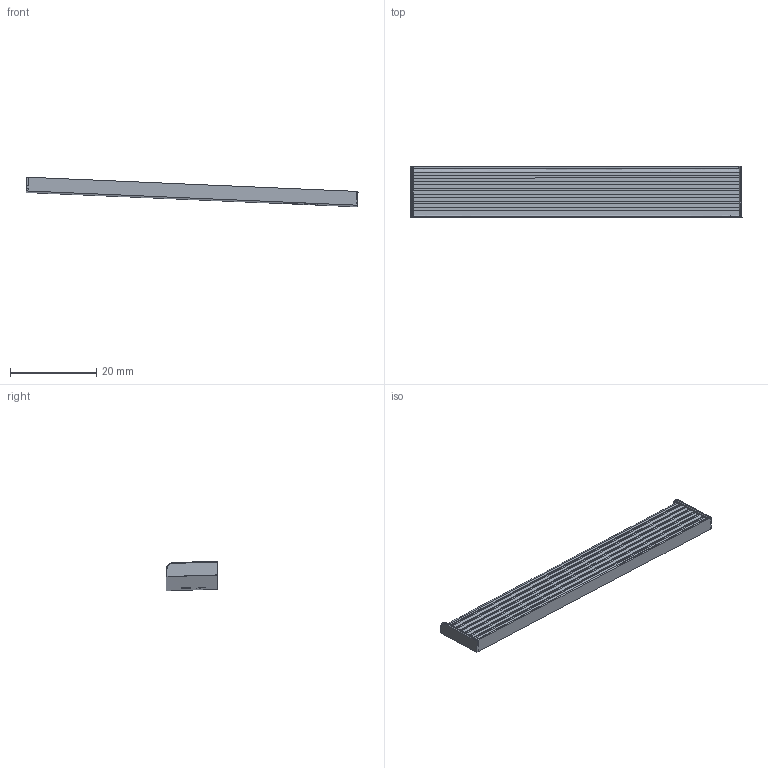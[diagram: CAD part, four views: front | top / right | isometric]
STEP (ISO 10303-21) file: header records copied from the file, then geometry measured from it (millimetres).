
FILE_DESCRIPTION(/* description */ ('','CAx-IF Rec.Pracs.---Representation and Presentation of Product Manufacturing Information (PMI)---4.0---2014-10-13'),/* implementation_level */ '2;1');
FILE_NAME(/* name */ '20elcothrottlecoveringa18680.step',/* time_stamp */ '2025-03-07T13:50:50+11:00',/* author */ (''),/* organization */ (''),/* preprocessor_version */ 'ST-DEVELOPER v20',/* originating_system */ 'Autodesk Translation Framework v13.20.0.188',/* authorisation */ '');
FILE_SCHEMA (('AP242_MANAGED_MODEL_BASED_3D_ENGINEERING_MIM_LF { 1 0 10303 442 1 1 4 }'));
Length unit declared in the file: millimetre
Products named in the file (1): Elco Throttle Deck Covering
Bounding box: 77.07 x 12.01 x 6.88 mm (x, y, z)
Volume: 2255.2 mm3; surface area: 2655.5 mm2
Topology: 1 solids, 1 shells, 281 faces, 784 edges, 520 vertices
Faces by surface type: bspline 195, plane 81, cylinder 5
Entity records: 15981 total; most frequent: CARTESIAN_POINT 10331, ORIENTED_EDGE 1566, EDGE_CURVE 783, VERTEX_POINT 520, B_SPLINE_CURVE_WITH_KNOTS 515, DIRECTION 450, EDGE_LOOP 297, FACE_OUTER_BOUND 281
